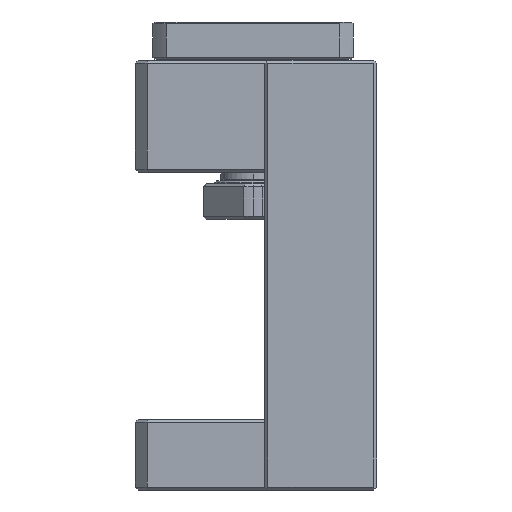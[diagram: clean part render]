
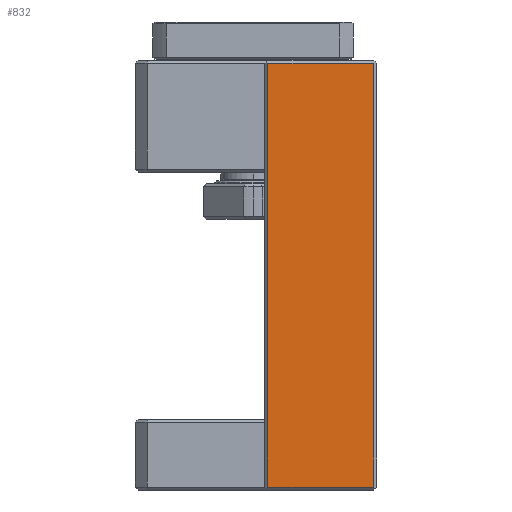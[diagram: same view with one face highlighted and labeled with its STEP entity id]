
A CAD part, left-side view. The second image highlights one B-rep face of the part: STEP entity #832.
In plain terms, the highlighted planar face has unit normal (-1, 0, 0).
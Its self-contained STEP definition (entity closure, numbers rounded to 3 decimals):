
#832 = ADVANCED_FACE ( 'NONE', ( #5778 ), #5777, .T. ) ;
#833 = EDGE_LOOP ( 'NONE', ( #834, #893, #896, #899 ) ) ;
#834 = ORIENTED_EDGE ( 'NONE', *, *, #835, .T. ) ;
#835 = EDGE_CURVE ( 'NONE', #836, #837, #5772, .T. ) ;
#836 = VERTEX_POINT ( 'NONE', #5834 ) ;
#837 = VERTEX_POINT ( 'NONE', #5833 ) ;
#893 = ORIENTED_EDGE ( 'NONE', *, *, #894, .T. ) ;
#894 = EDGE_CURVE ( 'NONE', #837, #895, #5918, .T. ) ;
#895 = VERTEX_POINT ( 'NONE', #5914 ) ;
#896 = ORIENTED_EDGE ( 'NONE', *, *, #897, .T. ) ;
#897 = EDGE_CURVE ( 'NONE', #895, #898, #5913, .T. ) ;
#898 = VERTEX_POINT ( 'NONE', #5909 ) ;
#899 = ORIENTED_EDGE ( 'NONE', *, *, #900, .T. ) ;
#900 = EDGE_CURVE ( 'NONE', #898, #836, #5908, .T. ) ;
#5769 = DIRECTION ( 'NONE',  ( 0., -1., 0. ) ) ;
#5770 = VECTOR ( 'NONE', #5769, 1000. ) ;
#5771 = CARTESIAN_POINT ( 'NONE',  ( 0., 0., -72.5 ) ) ;
#5772 = LINE ( 'NONE', #5771, #5770 ) ;
#5773 = DIRECTION ( 'NONE',  ( 0., -1., 0. ) ) ;
#5774 = DIRECTION ( 'NONE',  ( -1., 0., 0. ) ) ;
#5775 = CARTESIAN_POINT ( 'NONE',  ( 0., 19., -73. ) ) ;
#5776 = AXIS2_PLACEMENT_3D ( 'NONE', #5775, #5774, #5773 ) ;
#5777 = PLANE ( 'NONE',  #5776 ) ;
#5778 = FACE_OUTER_BOUND ( 'NONE', #833, .T. ) ;
#5833 = CARTESIAN_POINT ( 'NONE',  ( 0., 0.5, -72.5 ) ) ;
#5834 = CARTESIAN_POINT ( 'NONE',  ( 0., 18.5, -72.5 ) ) ;
#5905 = DIRECTION ( 'NONE',  ( 0., 0., -1. ) ) ;
#5906 = VECTOR ( 'NONE', #5905, 1000. ) ;
#5907 = CARTESIAN_POINT ( 'NONE',  ( 0., 18.5, -73. ) ) ;
#5908 = LINE ( 'NONE', #5907, #5906 ) ;
#5909 = CARTESIAN_POINT ( 'NONE',  ( 0., 18.5, -0.5 ) ) ;
#5910 = DIRECTION ( 'NONE',  ( 0., 1., 0. ) ) ;
#5911 = VECTOR ( 'NONE', #5910, 1000. ) ;
#5912 = CARTESIAN_POINT ( 'NONE',  ( 0., 19., -0.5 ) ) ;
#5913 = LINE ( 'NONE', #5912, #5911 ) ;
#5914 = CARTESIAN_POINT ( 'NONE',  ( 0., 0.5, -0.5 ) ) ;
#5915 = DIRECTION ( 'NONE',  ( 0., 0., 1. ) ) ;
#5916 = VECTOR ( 'NONE', #5915, 1000. ) ;
#5917 = CARTESIAN_POINT ( 'NONE',  ( 0., 0.5, -73. ) ) ;
#5918 = LINE ( 'NONE', #5917, #5916 ) ;
